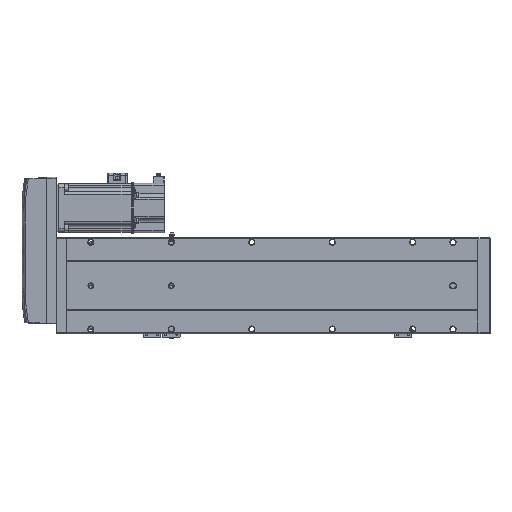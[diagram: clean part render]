
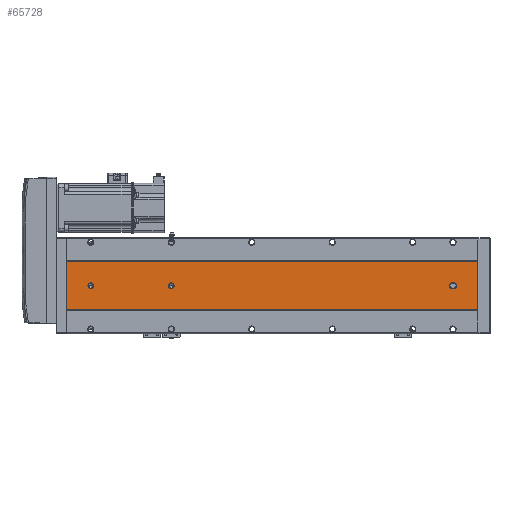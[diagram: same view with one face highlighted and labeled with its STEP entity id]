
A CAD part, front view. The second image highlights one B-rep face of the part: STEP entity #65728.
In plain terms, the highlighted planar face has unit normal (0, -1, 0).
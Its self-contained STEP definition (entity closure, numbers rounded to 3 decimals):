
#159 = CARTESIAN_POINT ( 'NONE',  ( -39.892, -52.848, 32. ) ) ;
#2293 = AXIS2_PLACEMENT_3D ( 'NONE', #26478, #82768, #34520 ) ;
#2672 = ORIENTED_EDGE ( 'NONE', *, *, #55118, .T. ) ;
#3941 = ORIENTED_EDGE ( 'NONE', *, *, #13629, .T. ) ;
#4830 = CARTESIAN_POINT ( 'NONE',  ( -69.892, -52.848, 511. ) ) ;
#4896 = AXIS2_PLACEMENT_3D ( 'NONE', #49369, #25589, #89609 ) ;
#5007 = VERTEX_POINT ( 'NONE', #69092 ) ;
#6322 = FACE_BOUND ( 'NONE', #50331, .T. ) ;
#6634 = CARTESIAN_POINT ( 'NONE',  ( -69.892, -52.848, 511. ) ) ;
#6871 = VECTOR ( 'NONE', #46265, 1000. ) ;
#7007 = VERTEX_POINT ( 'NONE', #39142 ) ;
#7305 = EDGE_CURVE ( 'NONE', #22691, #95899, #25978, .T. ) ;
#7753 = CARTESIAN_POINT ( 'NONE',  ( -43.392, -52.848, 511. ) ) ;
#7989 = CIRCLE ( 'NONE', #66766, 3.5 ) ;
#8901 = ORIENTED_EDGE ( 'NONE', *, *, #63701, .T. ) ;
#9850 = CARTESIAN_POINT ( 'NONE',  ( -36.392, -52.848, 511. ) ) ;
#10608 = CARTESIAN_POINT ( 'NONE',  ( -36.392, -52.848, 30. ) ) ;
#11173 = EDGE_CURVE ( 'NONE', #35254, #94615, #86662, .T. ) ;
#11300 = VERTEX_POINT ( 'NONE', #33377 ) ;
#11695 = CIRCLE ( 'NONE', #85707, 3.5 ) ;
#11931 = ORIENTED_EDGE ( 'NONE', *, *, #48045, .T. ) ;
#13103 = LINE ( 'NONE', #22844, #6871 ) ;
#13629 = EDGE_CURVE ( 'NONE', #7007, #53054, #11695, .T. ) ;
#14782 = DIRECTION ( 'NONE',  ( 0., 0., 1. ) ) ;
#17005 = VECTOR ( 'NONE', #94718, 1000. ) ;
#18950 = EDGE_LOOP ( 'NONE', ( #90596, #61785, #52065, #70625 ) ) ;
#19439 = EDGE_CURVE ( 'NONE', #95899, #22691, #58073, .T. ) ;
#19671 = CARTESIAN_POINT ( 'NONE',  ( -39.892, -52.848, 384.5 ) ) ;
#20199 = CARTESIAN_POINT ( 'NONE',  ( -39.892, -52.848, 381. ) ) ;
#20880 = DIRECTION ( 'NONE',  ( 0., 0., -1. ) ) ;
#22691 = VERTEX_POINT ( 'NONE', #19671 ) ;
#22844 = CARTESIAN_POINT ( 'NONE',  ( -9.892, -52.848, 511. ) ) ;
#24001 = CARTESIAN_POINT ( 'NONE',  ( -9.892, -52.848, 511. ) ) ;
#25371 = DIRECTION ( 'NONE',  ( 0., 1., 0. ) ) ;
#25589 = DIRECTION ( 'NONE',  ( 0., 1., 0. ) ) ;
#25978 = CIRCLE ( 'NONE', #53707, 3.5 ) ;
#26478 = CARTESIAN_POINT ( 'NONE',  ( -39.892, -52.848, 30. ) ) ;
#32894 = AXIS2_PLACEMENT_3D ( 'NONE', #159, #79820, #55384 ) ;
#33377 = CARTESIAN_POINT ( 'NONE',  ( -43.392, -52.848, 30. ) ) ;
#34520 = DIRECTION ( 'NONE',  ( 0., 0., 1. ) ) ;
#35254 = VERTEX_POINT ( 'NONE', #61070 ) ;
#36284 = DIRECTION ( 'NONE',  ( 0., 1., 0. ) ) ;
#36823 = VERTEX_POINT ( 'NONE', #24001 ) ;
#38321 = LINE ( 'NONE', #6634, #17005 ) ;
#38346 = VECTOR ( 'NONE', #14782, 1000. ) ;
#39142 = CARTESIAN_POINT ( 'NONE',  ( -39.892, -52.848, 484.5 ) ) ;
#39994 = CIRCLE ( 'NONE', #73154, 3.5 ) ;
#42181 = LINE ( 'NONE', #9850, #55962 ) ;
#42215 = DIRECTION ( 'NONE',  ( 0., 1., 0. ) ) ;
#42476 = VERTEX_POINT ( 'NONE', #10608 ) ;
#42693 = EDGE_CURVE ( 'NONE', #36823, #101746, #13103, .T. ) ;
#42900 = CIRCLE ( 'NONE', #32894, 3.5 ) ;
#43412 = ORIENTED_EDGE ( 'NONE', *, *, #99035, .T. ) ;
#44229 = EDGE_CURVE ( 'NONE', #94615, #101746, #56657, .T. ) ;
#46265 = DIRECTION ( 'NONE',  ( 0., 0., -1. ) ) ;
#48045 = EDGE_CURVE ( 'NONE', #42476, #92177, #58402, .T. ) ;
#49119 = ORIENTED_EDGE ( 'NONE', *, *, #68817, .T. ) ;
#49348 = DIRECTION ( 'NONE',  ( 0., 0., -1. ) ) ;
#49369 = CARTESIAN_POINT ( 'NONE',  ( -69.892, -52.848, 511. ) ) ;
#49924 = DIRECTION ( 'NONE',  ( 0., 0., 1. ) ) ;
#50331 = EDGE_LOOP ( 'NONE', ( #43412, #8901, #92070, #11931, #2672 ) ) ;
#52065 = ORIENTED_EDGE ( 'NONE', *, *, #102441, .F. ) ;
#52577 = FACE_BOUND ( 'NONE', #96780, .T. ) ;
#53054 = VERTEX_POINT ( 'NONE', #93066 ) ;
#53707 = AXIS2_PLACEMENT_3D ( 'NONE', #20199, #36284, #92237 ) ;
#54200 = ORIENTED_EDGE ( 'NONE', *, *, #7305, .T. ) ;
#55072 = FACE_BOUND ( 'NONE', #97555, .T. ) ;
#55118 = EDGE_CURVE ( 'NONE', #92177, #11300, #39994, .T. ) ;
#55384 = DIRECTION ( 'NONE',  ( 0., 0., 1. ) ) ;
#55835 = DIRECTION ( 'NONE',  ( 0., 0., 1. ) ) ;
#55962 = VECTOR ( 'NONE', #49348, 1000. ) ;
#56657 = LINE ( 'NONE', #81092, #87970 ) ;
#58073 = CIRCLE ( 'NONE', #91313, 3.5 ) ;
#58402 = CIRCLE ( 'NONE', #2293, 3.5 ) ;
#59573 = PLANE ( 'NONE',  #4896 ) ;
#59626 = LINE ( 'NONE', #7753, #38346 ) ;
#61070 = CARTESIAN_POINT ( 'NONE',  ( -69.892, -52.848, 511. ) ) ;
#61785 = ORIENTED_EDGE ( 'NONE', *, *, #42693, .F. ) ;
#62849 = DIRECTION ( 'NONE',  ( 0., 1., 0. ) ) ;
#63701 = EDGE_CURVE ( 'NONE', #93999, #5007, #42900, .T. ) ;
#65728 = ADVANCED_FACE ( 'NONE', ( #6322, #52577, #55072, #87576 ), #59573, .F. ) ;
#65945 = DIRECTION ( 'NONE',  ( 0., 0., 1. ) ) ;
#66766 = AXIS2_PLACEMENT_3D ( 'NONE', #75193, #83918, #83206 ) ;
#68817 = EDGE_CURVE ( 'NONE', #53054, #7007, #7989, .T. ) ;
#69092 = CARTESIAN_POINT ( 'NONE',  ( -36.392, -52.848, 32. ) ) ;
#70625 = ORIENTED_EDGE ( 'NONE', *, *, #11173, .T. ) ;
#72575 = CARTESIAN_POINT ( 'NONE',  ( -39.892, -52.848, 381. ) ) ;
#73154 = AXIS2_PLACEMENT_3D ( 'NONE', #86637, #62849, #55835 ) ;
#73360 = DIRECTION ( 'NONE',  ( 1., 0., 0. ) ) ;
#75193 = CARTESIAN_POINT ( 'NONE',  ( -39.892, -52.848, 481. ) ) ;
#76981 = CARTESIAN_POINT ( 'NONE',  ( -9.892, -52.848, 0. ) ) ;
#79820 = DIRECTION ( 'NONE',  ( 0., 1., 0. ) ) ;
#81092 = CARTESIAN_POINT ( 'NONE',  ( -69.892, -52.848, 0. ) ) ;
#81280 = CARTESIAN_POINT ( 'NONE',  ( -39.892, -52.848, 26.5 ) ) ;
#81617 = VECTOR ( 'NONE', #20880, 1000. ) ;
#82084 = CARTESIAN_POINT ( 'NONE',  ( -43.392, -52.848, 32. ) ) ;
#82768 = DIRECTION ( 'NONE',  ( 0., 1., 0. ) ) ;
#83206 = DIRECTION ( 'NONE',  ( 0., 0., 1. ) ) ;
#83918 = DIRECTION ( 'NONE',  ( 0., 1., 0. ) ) ;
#85167 = CARTESIAN_POINT ( 'NONE',  ( -39.892, -52.848, 377.5 ) ) ;
#85707 = AXIS2_PLACEMENT_3D ( 'NONE', #98503, #42215, #49924 ) ;
#86637 = CARTESIAN_POINT ( 'NONE',  ( -39.892, -52.848, 30. ) ) ;
#86662 = LINE ( 'NONE', #4830, #81617 ) ;
#87182 = CARTESIAN_POINT ( 'NONE',  ( -69.892, -52.848, 0. ) ) ;
#87576 = FACE_OUTER_BOUND ( 'NONE', #18950, .T. ) ;
#87970 = VECTOR ( 'NONE', #73360, 1000. ) ;
#88832 = ORIENTED_EDGE ( 'NONE', *, *, #19439, .T. ) ;
#89609 = DIRECTION ( 'NONE',  ( 0., 0., 1. ) ) ;
#90596 = ORIENTED_EDGE ( 'NONE', *, *, #44229, .T. ) ;
#91313 = AXIS2_PLACEMENT_3D ( 'NONE', #72575, #25371, #65945 ) ;
#92070 = ORIENTED_EDGE ( 'NONE', *, *, #101439, .T. ) ;
#92177 = VERTEX_POINT ( 'NONE', #81280 ) ;
#92237 = DIRECTION ( 'NONE',  ( 0., 0., 1. ) ) ;
#93066 = CARTESIAN_POINT ( 'NONE',  ( -39.892, -52.848, 477.5 ) ) ;
#93999 = VERTEX_POINT ( 'NONE', #82084 ) ;
#94615 = VERTEX_POINT ( 'NONE', #87182 ) ;
#94718 = DIRECTION ( 'NONE',  ( 1., 0., 0. ) ) ;
#95899 = VERTEX_POINT ( 'NONE', #85167 ) ;
#96780 = EDGE_LOOP ( 'NONE', ( #88832, #54200 ) ) ;
#97555 = EDGE_LOOP ( 'NONE', ( #49119, #3941 ) ) ;
#98503 = CARTESIAN_POINT ( 'NONE',  ( -39.892, -52.848, 481. ) ) ;
#99035 = EDGE_CURVE ( 'NONE', #11300, #93999, #59626, .T. ) ;
#101439 = EDGE_CURVE ( 'NONE', #5007, #42476, #42181, .T. ) ;
#101746 = VERTEX_POINT ( 'NONE', #76981 ) ;
#102441 = EDGE_CURVE ( 'NONE', #35254, #36823, #38321, .T. ) ;
